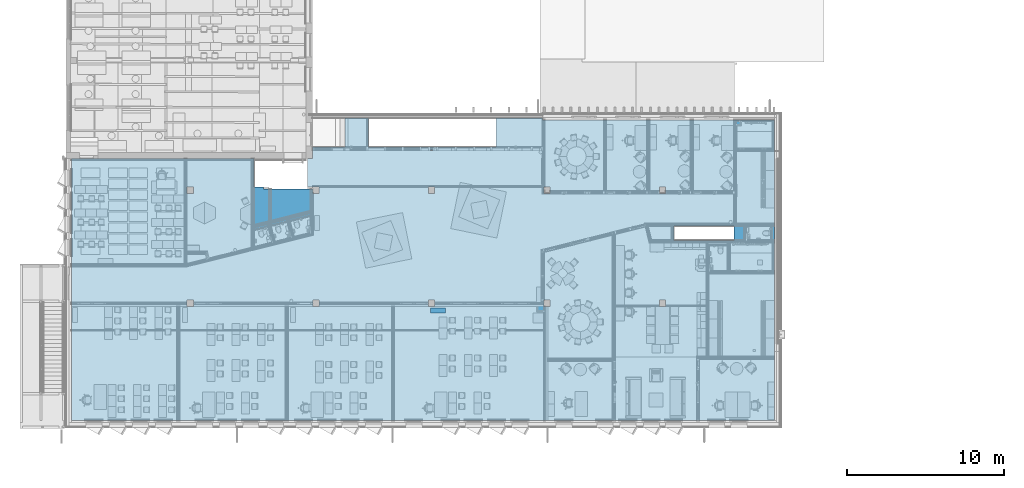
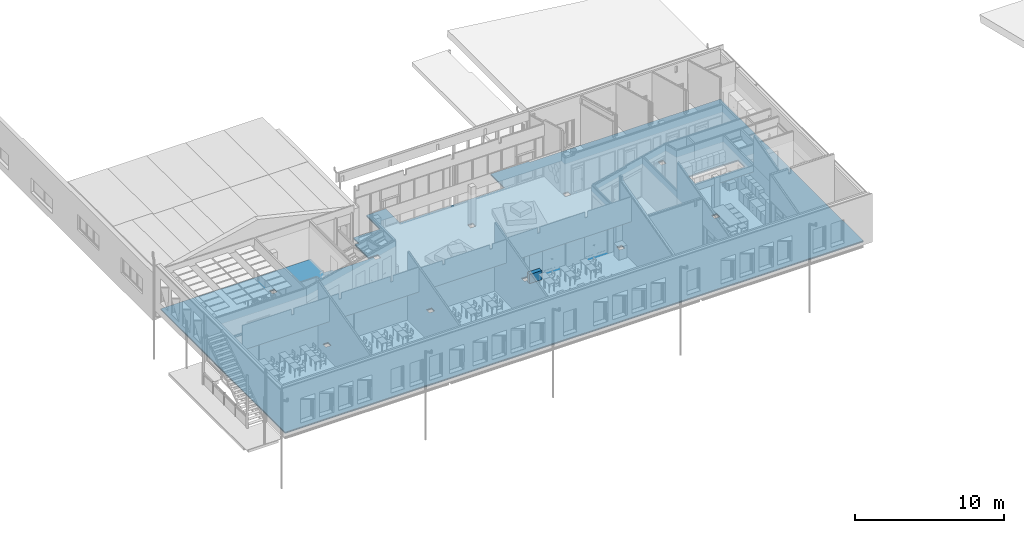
# One storey, part 58 of 153: 2 building element parts, 1 discrete accessory, 1 element without a shape of its own.
"""IFC2X3 building model written with IfcOpenShell, lengths in millimetres."""

from ifc_helpers import new_model, entity, si_unit, converted_unit, derived_unit, money_unit, direction, frame, origin_with_axes, place, context, subcontext, project, spatial, faceted_brep, material, type_object, element, aggregate, save


model = new_model("IFC2X3")

# Units and contexts
model_context = context("Model", 3, precision=0.01, world=origin_with_axes(), true_north=direction((0.0, 1.0)))
body_context = subcontext(model_context, "Body", "Model", "MODEL_VIEW")
ifc_project = project(units=[si_unit("LENGTHUNIT", "METRE", prefix="MILLI"), si_unit("AREAUNIT", "SQUARE_METRE"), si_unit("VOLUMEUNIT", "CUBIC_METRE"), converted_unit("PLANEANGLEUNIT", "DEGREE", entity("IfcPlaneAngleMeasure", 0.0174532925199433), si_unit("PLANEANGLEUNIT", "RADIAN"), dimensions=[0, 0, 0, 0, 0, 0, 0]), money_unit("EUR"), converted_unit("TIMEUNIT", "Year", entity("IfcTimeMeasure", 31557600.0), si_unit("TIMEUNIT", "SECOND"), dimensions=[0, 0, 1, 0, 0, 0, 0]), si_unit("MASSUNIT", "GRAM", prefix="KILO"), si_unit("THERMODYNAMICTEMPERATUREUNIT", "DEGREE_CELSIUS"), si_unit("LUMINOUSINTENSITYUNIT", "LUMEN"), si_unit("ENERGYUNIT", "JOULE", prefix="MEGA"), derived_unit("THERMALCONDUCTANCEUNIT", [(si_unit("POWERUNIT", "WATT"), 1), (si_unit("LENGTHUNIT", "METRE"), -1), (si_unit("THERMODYNAMICTEMPERATUREUNIT", "KELVIN"), -1)]), derived_unit("SPECIFICHEATCAPACITYUNIT", [(si_unit("ENERGYUNIT", "JOULE"), 1), (si_unit("MASSUNIT", "GRAM", prefix="KILO"), -1), (si_unit("THERMODYNAMICTEMPERATUREUNIT", "KELVIN"), -1)]), derived_unit("MASSDENSITYUNIT", [(si_unit("MASSUNIT", "GRAM", prefix="KILO"), 1), (si_unit("VOLUMEUNIT", "CUBIC_METRE"), -1)])], contexts=[model_context])

# Site, building, storey
site_placement = place(None, frame((0.0, 0.0, 8650.0), z_axis=(0.0, 0.0, 1.0), x_axis=(1.0, 0.0, 0.0)))
site = spatial("IfcSite", under=ifc_project, at=site_placement, Name="43301:001:0844", CompositionType="ELEMENT")
building_placement = place(site_placement, origin_with_axes())
building = spatial("IfcBuilding", under=site, at=building_placement, Name="Kuressaare Ametikooli tuulikute mehaanikute õppekorpus", CompositionType="ELEMENT")
storey_placement = place(building_placement, frame((0.0, 0.0, 4100.0), z_axis=(0.0, 0.0, 1.0), x_axis=(1.0, 0.0, 0.0)))
storey = spatial("IfcBuildingStorey", under=building, at=storey_placement, Name="2.korrus", CompositionType="ELEMENT", Elevation=4100.0)

# Discrete accessory
ifc_material_1 = material(Name="GENEERILINE - KONSTRUKTRIOON")
discrete_accessory_type = type_object("IfcDiscreteAccessoryType", Name="GENEERILINE - KONSTRUKTRIOON 750")
discrete_accessory_placement = place(storey_placement, frame((111170.0015361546, 16272.40719322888, 0.0), z_axis=(0.0, 0.0, 1.0), x_axis=(1.0, 0.0, 0.0)))
element("IfcDiscreteAccessory", 1, at=discrete_accessory_placement, inside=storey, type_object=discrete_accessory_type, material=ifc_material_1, Name="PR2", context=body_context, shape_type="Brep", body=[
    faceted_brep([(0.0, 0.0, 750.0), (0.0, 0.0, 0.0), (0.0, -319.9999999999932, 0.0), (0.0, -319.9999999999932, 750.0), (949.9999999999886, 0.0, 750.0), (949.9999999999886, 0.0, 0.0), (949.9999999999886, -319.9999999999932, 0.0), (949.9999999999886, -319.9999999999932, 750.0)], [[[0, 1, 2, 3]], [[4, 5, 1, 0]], [[2, 1, 5, 6]], [[3, 2, 6, 7]], [[4, 0, 3, 7]], [[7, 6, 5, 4]]]),
])

# Slab, building element parts
slab_type = type_object("IfcSlabType", Name="VL1 570", PredefinedType="NOTDEFINED")
slab_placement = place(storey_placement, frame((88318.22664518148, 25783.06892395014, 0.0), z_axis=(0.0, 0.0, 1.0), x_axis=(1.0, 0.0, 0.0)))
slab = element("IfcSlab", 2, at=slab_placement, inside=storey, type_object=slab_type, Name="VL-1", PredefinedType="NOTDEFINED")
ifc_material_2 = material(Name="Soojustus - Mineraalvill jäik")
building_element_part_1_placement = place(slab_placement, origin_with_axes())
building_element_part_1 = element("IfcBuildingElementPart", 3, at=building_element_part_1_placement, material=ifc_material_2, Name="Soojustus - Mineraalvill jäik", context=body_context, shape_type="Brep", body=[
    faceted_brep([(22954.75562185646, 668.5080291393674, -110.0000000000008), (22963.2409032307, 664.993310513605, -110.0000000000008), (22966.75562185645, 656.508029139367, -110.0000000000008), (22966.75562185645, 546.5080291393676, -110.0000000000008), (22963.2409032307, 538.0227477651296, -110.0000000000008), (22954.75562185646, 534.5080291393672, -110.0000000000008), (22844.75562185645, 534.5080291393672, -110.0000000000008), (22836.27034048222, 538.0227477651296, -110.0000000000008), (22832.75562185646, 546.5080291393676, -110.0000000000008), (22832.75562185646, 656.508029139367, -110.0000000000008), (22836.27034048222, 664.993310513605, -110.0000000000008), (22844.75562185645, 668.5080291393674, -110.0000000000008), (22954.75562185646, 668.5080291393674, -80.00000000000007), (22963.2409032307, 664.993310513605, -80.00000000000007), (22966.75562185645, 656.508029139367, -80.00000000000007), (22966.75562185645, 546.5080291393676, -80.00000000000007), (22963.2409032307, 538.0227477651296, -80.00000000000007), (22954.75562185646, 534.5080291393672, -80.00000000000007), (22844.75562185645, 534.5080291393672, -80.00000000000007), (22836.27034048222, 538.0227477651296, -80.00000000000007), (22832.75562185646, 546.5080291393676, -80.00000000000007), (22832.75562185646, 656.508029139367, -80.00000000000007), (22836.27034048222, 664.993310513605, -80.00000000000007), (22844.75562185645, 668.5080291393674, -80.00000000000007)], [[[0, 1, 2, 3, 4, 5, 6, 7, 8, 9, 10, 11]], [[12, 13, 1, 0]], [[13, 14, 2, 1]], [[14, 15, 3, 2]], [[15, 16, 4, 3]], [[16, 17, 5, 4]], [[17, 18, 6, 5]], [[18, 19, 7, 6]], [[19, 20, 8, 7]], [[20, 21, 9, 8]], [[21, 22, 10, 9]], [[22, 23, 11, 10]], [[23, 12, 0, 11]], [[16, 15, 14, 13, 12, 23, 22, 21, 20, 19, 18, 17]]]),
    faceted_brep([(11614.3916432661, 0.0, -109.9999999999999), (11614.3916432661, -1808.999280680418, -109.9999999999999), (12219.09093963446, -1808.999280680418, -110.0000000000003), (12219.09093963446, -1948.999280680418, -110.0000000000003), (12565.49873778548, -1948.999346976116, -110.0000000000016), (15027.42804624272, -1948.999409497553, -109.9999999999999), (15349.72549660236, -1948.999280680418, -110.0000000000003), (15349.72549660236, -2209.000000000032, -110.0000000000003), (15749.72549660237, -2209.000000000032, -110.0000000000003), (15749.72549660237, -1809.000000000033, -110.0000000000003), (15349.72549660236, -1809.000000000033, -110.0000000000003), (15027.42804624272, -1808.999280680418, -109.9999999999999), (15027.42804624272, 0.0, -109.9999999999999), (15329.28556184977, 0.0, -109.9999999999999), (15329.28556184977, 726.5048248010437, -109.9999999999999), (17388.87603085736, 726.5048248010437, -109.9999999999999), (17388.87603085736, 2576.504824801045, -109.9999999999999), (18898.87074251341, 2576.504824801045, -109.9999999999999), (18898.87074251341, 726.5048248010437, -109.9999999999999), (26998.87603711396, 726.5048248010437, -109.9999999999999), (26998.87603711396, 2576.504824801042, -109.9999999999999), (29963.04908520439, 2576.504824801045, -109.9999999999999), (29963.04908520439, 2461.000000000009, -109.9999999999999), (44706.71979804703, 2461.000000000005, -109.9999999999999), (44706.71979532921, -16659.23043340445, -109.9999999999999), (0.0, -16659.23043340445, -109.9999999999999), (0.0, 0.0, -109.9999999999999), (42156.7198374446, -5196.000000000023, -109.9999999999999), (42156.7198374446, -4296.000000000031, -109.9999999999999), (38326.09762534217, -4296.000000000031, -109.9999999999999), (38326.09762534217, -5196.000000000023, -109.9999999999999), (22844.75562185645, 676.5080291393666, -110.0000000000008), (22834.75562185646, 673.828537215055, -110.0000000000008), (22827.43511378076, 666.5080291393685, -110.0000000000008), (22824.75562185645, 656.508029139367, -110.0000000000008), (22824.75562185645, 546.5080291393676, -110.0000000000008), (22827.43511378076, 536.508029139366, -110.0000000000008), (22834.75562185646, 529.1875210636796, -110.0000000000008), (22844.75562185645, 526.508029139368, -110.0000000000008), (22954.75562185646, 526.508029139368, -110.0000000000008), (22964.75562185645, 529.1875210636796, -110.0000000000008), (22972.07612993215, 536.508029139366, -110.0000000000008), (22974.75562185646, 546.5080291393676, -110.0000000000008), (22974.75562185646, 656.508029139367, -110.0000000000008), (22972.07612993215, 666.5080291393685, -110.0000000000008), (22964.75562185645, 673.828537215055, -110.0000000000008), (22954.75562185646, 676.5080291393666, -110.0000000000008), (7349.84171196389, -2209.000000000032, -110.0000000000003), (7749.841711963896, -2209.000000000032, -110.0000000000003), (7749.841711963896, -1809.000000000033, -110.0000000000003), (7349.84171196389, -1809.000000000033, -110.0000000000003), (30449.71992631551, -2209.000000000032, -110.0000000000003), (30449.71992631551, -1809.000000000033, -110.0000000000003), (30049.71992631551, -1809.000000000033, -110.0000000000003), (30049.71992631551, -2209.000000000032, -110.0000000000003), (23099.72272942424, -1809.000000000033, -110.0000000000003), (22699.72272942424, -1809.000000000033, -110.0000000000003), (22699.72272942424, -2209.000000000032, -110.0000000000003), (23099.72272942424, -2209.000000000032, -110.0000000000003), (37399.84171196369, -1809.000000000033, -110.0000000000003), (37399.84171196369, -2209.000000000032, -110.0000000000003), (37799.84171196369, -2209.000000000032, -110.0000000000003), (37799.84171196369, -1809.000000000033, -110.0000000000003), (7349.841783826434, -9409.022048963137, -110.0000000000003), (7749.84178382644, -9409.022048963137, -110.0000000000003), (7749.84178382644, -9009.02204896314, -110.0000000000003), (7349.841783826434, -9009.02204896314, -110.0000000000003), (37799.84171196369, -9409.022048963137, -110.0000000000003), (37799.84171196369, -9009.02204896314, -110.0000000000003), (37399.84171196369, -9009.02204896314, -110.0000000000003), (37399.84171196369, -9409.022048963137, -110.0000000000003), (23099.72272942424, -9009.022048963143, -110.0000000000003), (22699.72272942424, -9009.022048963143, -110.0000000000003), (22699.72272942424, -9409.022048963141, -110.0000000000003), (23099.72272942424, -9409.022048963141, -110.0000000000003), (15349.72548502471, -9009.02204896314, -110.0000000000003), (15349.72548502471, -9409.022048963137, -110.0000000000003), (15749.72548502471, -9409.022048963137, -110.0000000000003), (15749.72548502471, -9009.02204896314, -110.0000000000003), (30049.71999817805, -9409.022048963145, -110.0000000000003), (30449.71999817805, -9409.022048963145, -110.0000000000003), (30449.71999817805, -9009.022048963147, -110.0000000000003), (30049.71999817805, -9009.022048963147, -110.0000000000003), (11614.3916432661, -1808.999280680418, -80.00000000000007), (11614.3916432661, 0.0, -80.00000000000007), (12219.09093963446, -1808.999280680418, -80.00000000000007), (12219.09093963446, -1948.999280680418, -80.00000000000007), (12565.49873778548, -1948.999347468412, -80.00000000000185), (15027.42804624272, -1948.999409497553, -80.00000000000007), (15349.72549660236, -1948.999280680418, -80.00000000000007), (15349.72549660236, -2209.000000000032, -80.00000000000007), (15749.72549660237, -2209.000000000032, -80.00000000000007), (15749.72549660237, -1809.000000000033, -80.00000000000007), (15349.72549660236, -1809.000000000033, -80.00000000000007), (15027.42804624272, -1808.999280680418, -80.00000000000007), (15027.42804624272, 0.0, -80.00000000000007), (15329.28556184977, 0.0, -80.00000000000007), (15329.28556184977, 726.5048248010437, -80.00000000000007), (17388.87603085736, 726.5048248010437, -80.00000000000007), (17388.87603085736, 2576.504824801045, -80.00000000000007), (18898.87074251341, 2576.504824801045, -80.00000000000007), (18898.87074251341, 726.5048248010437, -80.00000000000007), (26998.87603711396, 726.5048248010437, -80.00000000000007), (26998.87603711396, 2576.504824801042, -80.00000000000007), (29963.04908520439, 2576.504824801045, -80.00000000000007), (29963.04908520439, 2461.000000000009, -80.00000000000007), (44706.71979804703, 2461.000000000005, -80.00000000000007), (44706.71979532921, -16659.23043340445, -80.00000000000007), (0.0, -16659.23043340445, -80.00000000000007), (0.0, 0.0, -80.00000000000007), (42156.7198374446, -4296.000000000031, -80.00000000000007), (42156.7198374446, -5196.000000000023, -80.00000000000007), (38326.09762534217, -4296.000000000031, -80.00000000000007), (38326.09762534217, -5196.000000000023, -80.00000000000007), (22844.75562185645, 676.5080291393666, -80.00000000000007), (22834.75562185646, 673.828537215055, -80.00000000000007), (22827.43511378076, 666.5080291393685, -80.00000000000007), (22824.75562185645, 656.508029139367, -80.00000000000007), (22824.75562185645, 546.5080291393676, -80.00000000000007), (22827.43511378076, 536.508029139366, -80.00000000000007), (22834.75562185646, 529.1875210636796, -80.00000000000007), (22844.75562185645, 526.508029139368, -80.00000000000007), (22954.75562185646, 526.508029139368, -80.00000000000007), (22964.75562185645, 529.1875210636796, -80.00000000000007), (22972.07612993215, 536.508029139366, -80.00000000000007), (22974.75562185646, 546.5080291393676, -80.00000000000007), (22974.75562185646, 656.508029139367, -80.00000000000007), (22972.07612993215, 666.5080291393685, -80.00000000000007), (22964.75562185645, 673.828537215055, -80.00000000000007), (22954.75562185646, 676.5080291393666, -80.00000000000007), (7349.84171196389, -2209.000000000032, -80.00000000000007), (7749.841711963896, -2209.000000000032, -80.00000000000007), (7749.841711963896, -1809.000000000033, -80.00000000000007), (7349.84171196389, -1809.000000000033, -80.00000000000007), (30449.71992631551, -1809.000000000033, -80.00000000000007), (30449.71992631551, -2209.000000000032, -80.00000000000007), (30049.71992631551, -1809.000000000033, -80.00000000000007), (30049.71992631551, -2209.000000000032, -80.00000000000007), (23099.72272942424, -1809.000000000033, -80.00000000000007), (22699.72272942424, -1809.000000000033, -80.00000000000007), (22699.72272942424, -2209.000000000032, -80.00000000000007), (23099.72272942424, -2209.000000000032, -80.00000000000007), (37399.84171196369, -1809.000000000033, -80.00000000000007), (37399.84171196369, -2209.000000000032, -80.00000000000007), (37799.84171196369, -2209.000000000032, -80.00000000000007), (37799.84171196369, -1809.000000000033, -80.00000000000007), (7349.841783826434, -9409.022048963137, -80.00000000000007), (7749.84178382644, -9409.022048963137, -80.00000000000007), (7749.84178382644, -9009.02204896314, -80.00000000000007), (7349.841783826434, -9009.02204896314, -80.00000000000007), (37799.84171196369, -9009.02204896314, -80.00000000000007), (37799.84171196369, -9409.022048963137, -80.00000000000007), (37399.84171196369, -9009.02204896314, -80.00000000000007), (37399.84171196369, -9409.022048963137, -80.00000000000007), (23099.72272942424, -9009.022048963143, -80.00000000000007), (22699.72272942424, -9009.022048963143, -80.00000000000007), (22699.72272942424, -9409.022048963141, -80.00000000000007), (23099.72272942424, -9409.022048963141, -80.00000000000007), (15349.72548502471, -9009.02204896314, -80.00000000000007), (15349.72548502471, -9409.022048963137, -80.00000000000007), (15749.72548502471, -9409.022048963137, -80.00000000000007), (15749.72548502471, -9009.02204896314, -80.00000000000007), (30049.71999817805, -9409.022048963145, -80.00000000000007), (30449.71999817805, -9409.022048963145, -80.00000000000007), (30449.71999817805, -9009.022048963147, -80.00000000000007), (30049.71999817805, -9009.022048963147, -80.00000000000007)], [[[0, 1, 2, 3, 4, 5, 6, 7, 8, 9, 10, 11, 12, 13, 14, 15, 16, 17, 18, 19, 20, 21, 22, 23, 24, 25, 26], [27, 28, 29, 30], [31, 32, 33, 34, 35, 36, 37, 38, 39, 40, 41, 42, 43, 44, 45, 46], [47, 48, 49, 50], [51, 52, 53, 54], [55, 56, 57, 58], [59, 60, 61, 62], [63, 64, 65, 66], [67, 68, 69, 70], [71, 72, 73, 74], [75, 76, 77, 78], [79, 80, 81, 82]], [[83, 1, 0, 84]], [[83, 85, 2, 1]], [[3, 2, 85, 86]], [[3, 86, 87, 4]], [[87, 88, 5, 4]], [[88, 89, 6, 5]], [[7, 6, 89, 90]], [[7, 90, 91, 8]], [[8, 91, 92, 9]], [[93, 94, 11, 10, 9, 92]], [[12, 11, 94, 95]], [[96, 13, 12, 95]], [[97, 14, 13, 96]], [[98, 15, 14, 97]], [[99, 16, 15, 98]], [[100, 17, 16, 99]], [[101, 18, 17, 100]], [[102, 19, 18, 101]], [[103, 20, 19, 102]], [[104, 21, 20, 103]], [[105, 22, 21, 104]], [[106, 23, 22, 105]], [[107, 24, 23, 106]], [[108, 25, 24, 107]], [[109, 26, 25, 108]], [[84, 0, 26, 109]], [[110, 28, 27, 111]], [[112, 29, 28, 110]], [[113, 30, 29, 112]], [[111, 27, 30, 113]], [[32, 31, 114, 115]], [[33, 32, 115, 116]], [[34, 33, 116, 117]], [[35, 34, 117, 118]], [[36, 35, 118, 119]], [[37, 36, 119, 120]], [[38, 37, 120, 121]], [[39, 38, 121, 122]], [[40, 39, 122, 123]], [[41, 40, 123, 124]], [[42, 41, 124, 125]], [[43, 42, 125, 126]], [[44, 43, 126, 127]], [[45, 44, 127, 128]], [[46, 45, 128, 129]], [[31, 46, 129, 114]], [[130, 131, 48, 47]], [[131, 132, 49, 48]], [[132, 133, 50, 49]], [[133, 130, 47, 50]], [[134, 52, 51, 135]], [[136, 53, 52, 134]], [[137, 54, 53, 136]], [[135, 51, 54, 137]], [[56, 55, 138, 139]], [[57, 56, 139, 140]], [[58, 57, 140, 141]], [[55, 58, 141, 138]], [[59, 142, 143, 60]], [[60, 143, 144, 61]], [[61, 144, 145, 62]], [[62, 145, 142, 59]], [[146, 147, 64, 63]], [[147, 148, 65, 64]], [[148, 149, 66, 65]], [[149, 146, 63, 66]], [[150, 68, 67, 151]], [[152, 69, 68, 150]], [[153, 70, 69, 152]], [[151, 67, 70, 153]], [[72, 71, 154, 155]], [[73, 72, 155, 156]], [[74, 73, 156, 157]], [[71, 74, 157, 154]], [[75, 158, 159, 76]], [[76, 159, 160, 77]], [[77, 160, 161, 78]], [[78, 161, 158, 75]], [[162, 163, 80, 79]], [[163, 164, 81, 80]], [[164, 165, 82, 81]], [[165, 162, 79, 82]], [[99, 98, 97, 96, 95, 94, 93, 92, 91, 90, 89, 88, 87, 86, 85, 83, 84, 109, 108, 107, 106, 105, 104, 103, 102, 101, 100], [111, 113, 112, 110], [122, 121, 120, 119, 118, 117, 116, 115, 114, 129, 128, 127, 126, 125, 124, 123], [130, 133, 132, 131], [136, 134, 135, 137], [138, 141, 140, 139], [144, 143, 142, 145], [146, 149, 148, 147], [152, 150, 151, 153], [154, 157, 156, 155], [160, 159, 158, 161], [162, 165, 164, 163]]]),
])
ifc_material_3 = material(Name="Kipsplaat")
building_element_part_2_placement = place(slab_placement, origin_with_axes())
building_element_part_2 = element("IfcBuildingElementPart", 4, at=building_element_part_2_placement, material=ifc_material_3, Name="Kipsplaat", context=body_context, shape_type="Brep", body=[
    faceted_brep([(22954.75562185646, 668.5080291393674, -80.00000000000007), (22963.2409032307, 664.993310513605, -80.00000000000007), (22966.75562185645, 656.508029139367, -80.00000000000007), (22966.75562185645, 546.5080291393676, -80.00000000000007), (22963.2409032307, 538.0227477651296, -80.00000000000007), (22954.75562185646, 534.5080291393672, -80.00000000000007), (22844.75562185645, 534.5080291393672, -80.00000000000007), (22836.27034048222, 538.0227477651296, -80.00000000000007), (22832.75562185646, 546.5080291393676, -80.00000000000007), (22832.75562185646, 656.508029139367, -80.00000000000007), (22836.27034048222, 664.993310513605, -80.00000000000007), (22844.75562185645, 668.5080291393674, -80.00000000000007), (22954.75562185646, 668.5080291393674, 0.0), (22963.2409032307, 664.993310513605, 0.0), (22966.75562185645, 656.508029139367, 0.0), (22966.75562185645, 546.5080291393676, 0.0), (22963.2409032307, 538.0227477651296, 0.0), (22954.75562185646, 534.5080291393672, 0.0), (22844.75562185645, 534.5080291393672, 0.0), (22836.27034048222, 538.0227477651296, 0.0), (22832.75562185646, 546.5080291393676, 0.0), (22832.75562185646, 656.508029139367, 0.0), (22836.27034048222, 664.993310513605, 0.0), (22844.75562185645, 668.5080291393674, 0.0)], [[[0, 1, 2, 3, 4, 5, 6, 7, 8, 9, 10, 11]], [[12, 13, 1, 0]], [[13, 14, 2, 1]], [[14, 15, 3, 2]], [[15, 16, 4, 3]], [[16, 17, 5, 4]], [[17, 18, 6, 5]], [[18, 19, 7, 6]], [[19, 20, 8, 7]], [[20, 21, 9, 8]], [[21, 22, 10, 9]], [[22, 23, 11, 10]], [[23, 12, 0, 11]], [[16, 15, 14, 13, 12, 23, 22, 21, 20, 19, 18, 17]]]),
    faceted_brep([(11614.3916432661, 0.0, -80.00000000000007), (11614.3916432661, -1808.999280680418, -80.00000000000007), (12219.09093963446, -1808.999280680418, -80.00000000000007), (12219.09093963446, -1948.999280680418, -80.00000000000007), (12565.49873778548, -1948.999347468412, -80.00000000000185), (15027.42804624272, -1948.999409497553, -80.00000000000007), (15349.72549660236, -1948.999280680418, -80.00000000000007), (15349.72549660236, -2209.000000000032, -80.00000000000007), (15749.72549660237, -2209.000000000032, -80.00000000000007), (15749.72549660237, -1809.000000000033, -80.00000000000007), (15349.72549660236, -1809.000000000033, -80.00000000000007), (15027.42804624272, -1808.999280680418, -80.00000000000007), (15027.42804624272, 0.0, -80.00000000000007), (15329.28556184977, 0.0, -80.00000000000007), (15329.28556184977, 726.5048248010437, -80.00000000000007), (17388.87603085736, 726.5048248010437, -80.00000000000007), (17388.87603085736, 2576.504824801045, -80.00000000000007), (18898.87074251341, 2576.504824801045, -80.00000000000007), (18898.87074251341, 726.5048248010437, -80.00000000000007), (26998.87603711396, 726.5048248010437, -80.00000000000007), (26998.87603711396, 2576.504824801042, -80.00000000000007), (29963.04908520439, 2576.504824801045, -80.00000000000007), (29963.04908520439, 2461.000000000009, -80.00000000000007), (44706.71979804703, 2461.000000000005, -80.00000000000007), (44706.71979532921, -16659.23043340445, -80.00000000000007), (0.0, -16659.23043340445, -80.00000000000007), (0.0, 0.0, -80.00000000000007), (42156.7198374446, -5196.000000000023, -80.00000000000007), (42156.7198374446, -4296.000000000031, -80.00000000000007), (38326.09762534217, -4296.000000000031, -80.00000000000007), (38326.09762534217, -5196.000000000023, -80.00000000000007), (22844.75562185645, 676.5080291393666, -80.00000000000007), (22834.75562185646, 673.828537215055, -80.00000000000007), (22827.43511378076, 666.5080291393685, -80.00000000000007), (22824.75562185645, 656.508029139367, -80.00000000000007), (22824.75562185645, 546.5080291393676, -80.00000000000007), (22827.43511378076, 536.508029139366, -80.00000000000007), (22834.75562185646, 529.1875210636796, -80.00000000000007), (22844.75562185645, 526.508029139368, -80.00000000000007), (22954.75562185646, 526.508029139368, -80.00000000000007), (22964.75562185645, 529.1875210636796, -80.00000000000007), (22972.07612993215, 536.508029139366, -80.00000000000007), (22974.75562185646, 546.5080291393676, -80.00000000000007), (22974.75562185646, 656.508029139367, -80.00000000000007), (22972.07612993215, 666.5080291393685, -80.00000000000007), (22964.75562185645, 673.828537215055, -80.00000000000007), (22954.75562185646, 676.5080291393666, -80.00000000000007), (7349.84171196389, -2209.000000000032, -80.00000000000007), (7749.841711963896, -2209.000000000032, -80.00000000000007), (7749.841711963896, -1809.000000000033, -80.00000000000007), (7349.84171196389, -1809.000000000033, -80.00000000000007), (30449.71992631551, -2209.000000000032, -80.00000000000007), (30449.71992631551, -1809.000000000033, -80.00000000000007), (30049.71992631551, -1809.000000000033, -80.00000000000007), (30049.71992631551, -2209.000000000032, -80.00000000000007), (23099.72272942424, -1809.000000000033, -80.00000000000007), (22699.72272942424, -1809.000000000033, -80.00000000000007), (22699.72272942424, -2209.000000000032, -80.00000000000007), (23099.72272942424, -2209.000000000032, -80.00000000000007), (37399.84171196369, -1809.000000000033, -80.00000000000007), (37399.84171196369, -2209.000000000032, -80.00000000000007), (37799.84171196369, -2209.000000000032, -80.00000000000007), (37799.84171196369, -1809.000000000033, -80.00000000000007), (7349.841783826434, -9409.022048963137, -80.00000000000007), (7749.84178382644, -9409.022048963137, -80.00000000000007), (7749.84178382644, -9009.02204896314, -80.00000000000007), (7349.841783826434, -9009.02204896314, -80.00000000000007), (37799.84171196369, -9409.022048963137, -80.00000000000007), (37799.84171196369, -9009.02204896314, -80.00000000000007), (37399.84171196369, -9009.02204896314, -80.00000000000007), (37399.84171196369, -9409.022048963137, -80.00000000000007), (23099.72272942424, -9009.022048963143, -80.00000000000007), (22699.72272942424, -9009.022048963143, -80.00000000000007), (22699.72272942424, -9409.022048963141, -80.00000000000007), (23099.72272942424, -9409.022048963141, -80.00000000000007), (15349.72548502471, -9009.02204896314, -80.00000000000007), (15349.72548502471, -9409.022048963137, -80.00000000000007), (15749.72548502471, -9409.022048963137, -80.00000000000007), (15749.72548502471, -9009.02204896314, -80.00000000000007), (30049.71999817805, -9409.022048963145, -80.00000000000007), (30449.71999817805, -9409.022048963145, -80.00000000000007), (30449.71999817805, -9009.022048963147, -80.00000000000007), (30049.71999817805, -9009.022048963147, -80.00000000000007), (11614.3916432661, -1808.999280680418, 0.0), (11614.3916432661, 0.0, 0.0), (12219.09093963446, -1808.999280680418, 0.0), (12219.09093963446, -1948.999280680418, 0.0), (12565.49873778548, -1948.999348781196, 0.0), (15027.42804624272, -1948.999409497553, 0.0), (15349.72549660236, -1948.999280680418, 0.0), (15349.72549660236, -2209.000000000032, 0.0), (15749.72549660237, -2209.000000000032, 0.0), (15749.72549660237, -1809.000000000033, 0.0), (15349.72549660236, -1809.000000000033, 0.0), (15027.42804624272, -1808.999280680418, 0.0), (15027.42804624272, 0.0, 0.0), (15329.28556184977, 0.0, 0.0), (15329.28556184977, 726.5048248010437, 0.0), (17388.87603085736, 726.5048248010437, 0.0), (17388.87603085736, 2576.504824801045, 0.0), (18898.87074251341, 2576.504824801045, 0.0), (18898.87074251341, 726.5048248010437, 0.0), (26998.87603711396, 726.5048248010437, 0.0), (26998.87603711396, 2576.504824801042, 0.0), (29963.04908520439, 2576.504824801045, 0.0), (29963.04908520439, 2461.000000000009, 0.0), (44706.71979804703, 2461.000000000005, 0.0), (44706.71979532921, -16659.23043340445, 0.0), (0.0, -16659.23043340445, 0.0), (0.0, 0.0, 0.0), (42156.7198374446, -4296.000000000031, 0.0), (42156.7198374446, -5196.000000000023, 0.0), (38326.09762534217, -4296.000000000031, 0.0), (38326.09762534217, -5196.000000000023, 0.0), (22844.75562185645, 676.5080291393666, 0.0), (22834.75562185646, 673.828537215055, 0.0), (22827.43511378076, 666.5080291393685, 0.0), (22824.75562185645, 656.508029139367, 0.0), (22824.75562185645, 546.5080291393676, 0.0), (22827.43511378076, 536.508029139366, 0.0), (22834.75562185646, 529.1875210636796, 0.0), (22844.75562185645, 526.508029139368, 0.0), (22954.75562185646, 526.508029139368, 0.0), (22964.75562185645, 529.1875210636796, 0.0), (22972.07612993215, 536.508029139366, 0.0), (22974.75562185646, 546.5080291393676, 0.0), (22974.75562185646, 656.508029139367, 0.0), (22972.07612993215, 666.5080291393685, 0.0), (22964.75562185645, 673.828537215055, 0.0), (22954.75562185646, 676.5080291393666, 0.0), (7349.84171196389, -2209.000000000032, 0.0), (7749.841711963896, -2209.000000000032, 0.0), (7749.841711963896, -1809.000000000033, 0.0), (7349.84171196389, -1809.000000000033, 0.0), (30449.71992631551, -1809.000000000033, 0.0), (30449.71992631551, -2209.000000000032, 0.0), (30049.71992631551, -1809.000000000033, 0.0), (30049.71992631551, -2209.000000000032, 0.0), (23099.72272942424, -1809.000000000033, 0.0), (22699.72272942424, -1809.000000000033, 0.0), (22699.72272942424, -2209.000000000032, 0.0), (23099.72272942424, -2209.000000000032, 0.0), (37399.84171196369, -1809.000000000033, 0.0), (37399.84171196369, -2209.000000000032, 0.0), (37799.84171196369, -2209.000000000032, 0.0), (37799.84171196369, -1809.000000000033, 0.0), (7349.841783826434, -9409.022048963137, 0.0), (7749.84178382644, -9409.022048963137, 0.0), (7749.84178382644, -9009.02204896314, 0.0), (7349.841783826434, -9009.02204896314, 0.0), (37799.84171196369, -9009.02204896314, 0.0), (37799.84171196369, -9409.022048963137, 0.0), (37399.84171196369, -9009.02204896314, 0.0), (37399.84171196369, -9409.022048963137, 0.0), (23099.72272942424, -9009.022048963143, 0.0), (22699.72272942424, -9009.022048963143, 0.0), (22699.72272942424, -9409.022048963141, 0.0), (23099.72272942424, -9409.022048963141, 0.0), (15349.72548502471, -9009.02204896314, 0.0), (15349.72548502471, -9409.022048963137, 0.0), (15749.72548502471, -9409.022048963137, 0.0), (15749.72548502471, -9009.02204896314, 0.0), (30049.71999817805, -9409.022048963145, 0.0), (30449.71999817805, -9409.022048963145, 0.0), (30449.71999817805, -9009.022048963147, 0.0), (30049.71999817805, -9009.022048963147, 0.0)], [[[0, 1, 2, 3, 4, 5, 6, 7, 8, 9, 10, 11, 12, 13, 14, 15, 16, 17, 18, 19, 20, 21, 22, 23, 24, 25, 26], [27, 28, 29, 30], [31, 32, 33, 34, 35, 36, 37, 38, 39, 40, 41, 42, 43, 44, 45, 46], [47, 48, 49, 50], [51, 52, 53, 54], [55, 56, 57, 58], [59, 60, 61, 62], [63, 64, 65, 66], [67, 68, 69, 70], [71, 72, 73, 74], [75, 76, 77, 78], [79, 80, 81, 82]], [[83, 1, 0, 84]], [[83, 85, 2, 1]], [[3, 2, 85, 86]], [[3, 86, 87, 4]], [[87, 88, 5, 4]], [[88, 89, 6, 5]], [[7, 6, 89, 90]], [[7, 90, 91, 8]], [[8, 91, 92, 9]], [[93, 94, 11, 10, 9, 92]], [[12, 11, 94, 95]], [[96, 13, 12, 95]], [[97, 14, 13, 96]], [[98, 15, 14, 97]], [[99, 16, 15, 98]], [[100, 17, 16, 99]], [[101, 18, 17, 100]], [[102, 19, 18, 101]], [[103, 20, 19, 102]], [[104, 21, 20, 103]], [[105, 22, 21, 104]], [[106, 23, 22, 105]], [[107, 24, 23, 106]], [[108, 25, 24, 107]], [[109, 26, 25, 108]], [[84, 0, 26, 109]], [[110, 28, 27, 111]], [[112, 29, 28, 110]], [[113, 30, 29, 112]], [[111, 27, 30, 113]], [[32, 31, 114, 115]], [[33, 32, 115, 116]], [[34, 33, 116, 117]], [[35, 34, 117, 118]], [[36, 35, 118, 119]], [[37, 36, 119, 120]], [[38, 37, 120, 121]], [[39, 38, 121, 122]], [[40, 39, 122, 123]], [[41, 40, 123, 124]], [[42, 41, 124, 125]], [[43, 42, 125, 126]], [[44, 43, 126, 127]], [[45, 44, 127, 128]], [[46, 45, 128, 129]], [[31, 46, 129, 114]], [[130, 131, 48, 47]], [[131, 132, 49, 48]], [[132, 133, 50, 49]], [[133, 130, 47, 50]], [[134, 52, 51, 135]], [[136, 53, 52, 134]], [[137, 54, 53, 136]], [[135, 51, 54, 137]], [[56, 55, 138, 139]], [[57, 56, 139, 140]], [[58, 57, 140, 141]], [[55, 58, 141, 138]], [[59, 142, 143, 60]], [[60, 143, 144, 61]], [[61, 144, 145, 62]], [[62, 145, 142, 59]], [[146, 147, 64, 63]], [[147, 148, 65, 64]], [[148, 149, 66, 65]], [[149, 146, 63, 66]], [[150, 68, 67, 151]], [[152, 69, 68, 150]], [[153, 70, 69, 152]], [[151, 67, 70, 153]], [[72, 71, 154, 155]], [[73, 72, 155, 156]], [[74, 73, 156, 157]], [[71, 74, 157, 154]], [[75, 158, 159, 76]], [[76, 159, 160, 77]], [[77, 160, 161, 78]], [[78, 161, 158, 75]], [[162, 163, 80, 79]], [[163, 164, 81, 80]], [[164, 165, 82, 81]], [[165, 162, 79, 82]], [[99, 98, 97, 96, 95, 94, 93, 92, 91, 90, 89, 88, 87, 86, 85, 83, 84, 109, 108, 107, 106, 105, 104, 103, 102, 101, 100], [111, 113, 112, 110], [122, 121, 120, 119, 118, 117, 116, 115, 114, 129, 128, 127, 126, 125, 124, 123], [130, 133, 132, 131], [136, 134, 135, 137], [138, 141, 140, 139], [144, 143, 142, 145], [146, 149, 148, 147], [152, 150, 151, 153], [154, 157, 156, 155], [160, 159, 158, 161], [162, 165, 164, 163]]]),
])
aggregate(slab, [building_element_part_1, building_element_part_2])

save(model, "model.ifc")
